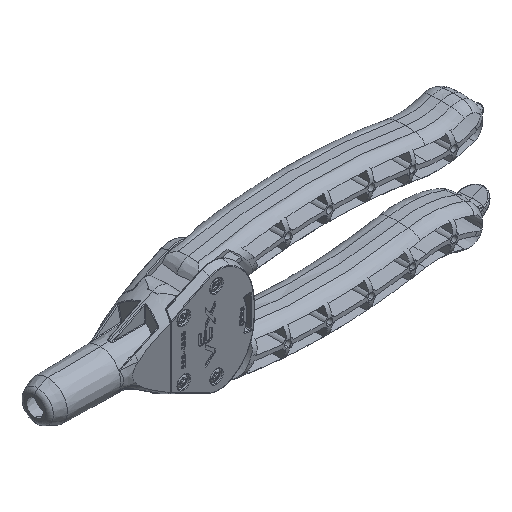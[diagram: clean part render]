
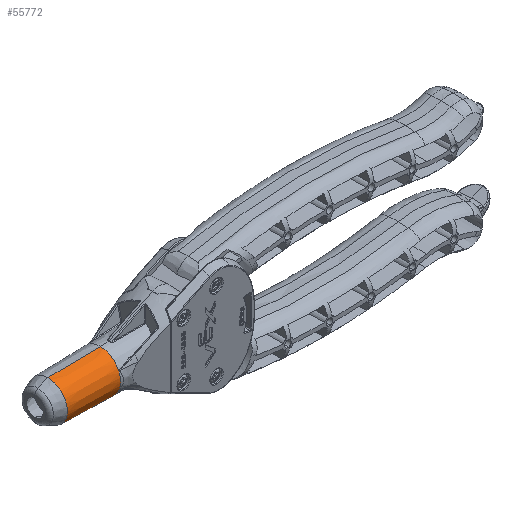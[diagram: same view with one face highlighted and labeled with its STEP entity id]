
A CAD part, isometric view. The second image highlights one B-rep face of the part: STEP entity #55772.
In plain terms, the highlighted conical face has half-angle 1 degrees and reference radius 5.875 mm.
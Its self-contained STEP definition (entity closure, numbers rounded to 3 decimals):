
#957 = CIRCLE ( 'NONE', #34156, 6.224 ) ;
#5314 = CARTESIAN_POINT ( 'NONE',  ( -40., 0., -6.224 ) ) ;
#6092 = CIRCLE ( 'NONE', #35383, 5.945 ) ;
#9125 = CARTESIAN_POINT ( 'NONE',  ( -56.012, 0., 0. ) ) ;
#10818 = VERTEX_POINT ( 'NONE', #18332 ) ;
#15697 = ORIENTED_EDGE ( 'NONE', *, *, #44294, .T. ) ;
#16190 = LINE ( 'NONE', #54142, #57572 ) ;
#18332 = CARTESIAN_POINT ( 'NONE',  ( -40., 0., 6.224 ) ) ;
#23707 = LINE ( 'NONE', #61194, #73749 ) ;
#26564 = FACE_OUTER_BOUND ( 'NONE', #40754, .T. ) ;
#28596 = DIRECTION ( 'NONE',  ( 1., 0., 0. ) ) ;
#29950 = VERTEX_POINT ( 'NONE', #5314 ) ;
#32897 = ORIENTED_EDGE ( 'NONE', *, *, #51508, .T. ) ;
#34156 = AXIS2_PLACEMENT_3D ( 'NONE', #62327, #61920, #81833 ) ;
#35383 = AXIS2_PLACEMENT_3D ( 'NONE', #9125, #52959, #47473 ) ;
#36972 = AXIS2_PLACEMENT_3D ( 'NONE', #45732, #28596, #59880 ) ;
#40754 = EDGE_LOOP ( 'NONE', ( #15697, #44792, #49663, #32897 ) ) ;
#44294 = EDGE_CURVE ( 'NONE', #71144, #54275, #6092, .T. ) ;
#44792 = ORIENTED_EDGE ( 'NONE', *, *, #60152, .T. ) ;
#45732 = CARTESIAN_POINT ( 'NONE',  ( -60., 0., 0. ) ) ;
#47473 = DIRECTION ( 'NONE',  ( 0., 0., -1. ) ) ;
#47842 = DIRECTION ( 'NONE',  ( -1., 0., -0.017 ) ) ;
#49663 = ORIENTED_EDGE ( 'NONE', *, *, #64500, .T. ) ;
#51508 = EDGE_CURVE ( 'NONE', #10818, #71144, #16190, .T. ) ;
#52959 = DIRECTION ( 'NONE',  ( 1., 0., 0. ) ) ;
#52989 = CONICAL_SURFACE ( 'NONE', #36972, 5.875, 0.017 ) ;
#54142 = CARTESIAN_POINT ( 'NONE',  ( -396.579, 0., 0. ) ) ;
#54275 = VERTEX_POINT ( 'NONE', #74355 ) ;
#55772 = ADVANCED_FACE ( 'NONE', ( #26564 ), #52989, .T. ) ;
#56625 = DIRECTION ( 'NONE',  ( 1., 0., -0.017 ) ) ;
#57572 = VECTOR ( 'NONE', #47842, 1000. ) ;
#59880 = DIRECTION ( 'NONE',  ( 0., 0., 1. ) ) ;
#60152 = EDGE_CURVE ( 'NONE', #54275, #29950, #23707, .T. ) ;
#61194 = CARTESIAN_POINT ( 'NONE',  ( -396.579, 0., 0. ) ) ;
#61920 = DIRECTION ( 'NONE',  ( -1., 0., 0. ) ) ;
#62327 = CARTESIAN_POINT ( 'NONE',  ( -40., 0., 0. ) ) ;
#64500 = EDGE_CURVE ( 'NONE', #29950, #10818, #957, .T. ) ;
#71144 = VERTEX_POINT ( 'NONE', #73293 ) ;
#73293 = CARTESIAN_POINT ( 'NONE',  ( -56.012, 0., 5.945 ) ) ;
#73749 = VECTOR ( 'NONE', #56625, 1000. ) ;
#74355 = CARTESIAN_POINT ( 'NONE',  ( -56.012, 0., -5.945 ) ) ;
#81833 = DIRECTION ( 'NONE',  ( 0., 0., -1. ) ) ;
